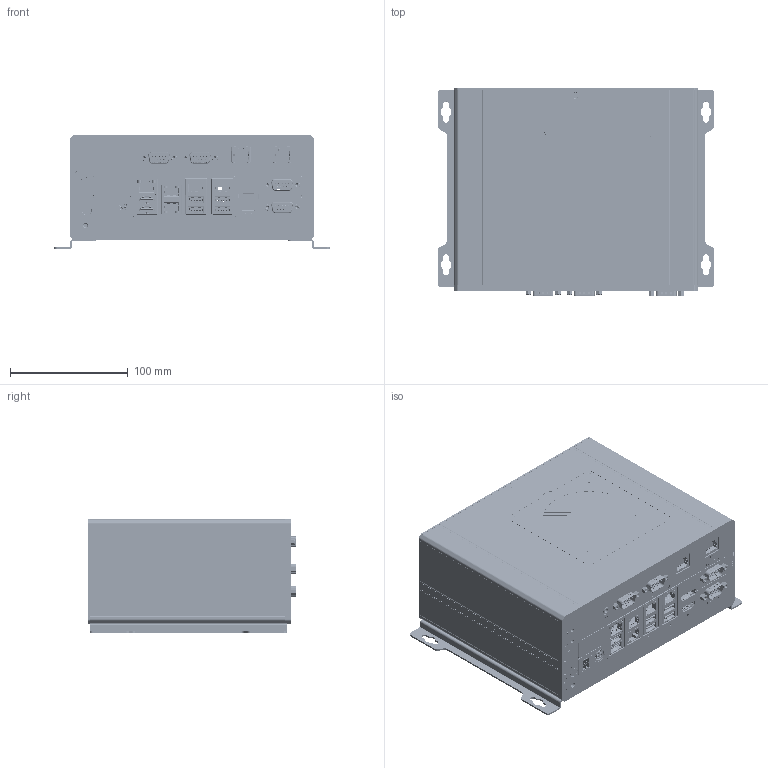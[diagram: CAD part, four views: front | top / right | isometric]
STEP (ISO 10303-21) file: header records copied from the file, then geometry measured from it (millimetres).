
FILE_DESCRIPTION(/* description */ (''),/* implementation_level */ '2;1');
FILE_NAME(/* name */ 'x2000.stp',/* time_stamp */ '2024-08-21T17:46:24+08:00',/* author */ (''),/* organization */ (''),/* preprocessor_version */ 'ST-DEVELOPER v16',/* originating_system */ 'SIEMENS PLM Software NX 10.0',/* authorisation */ '');
FILE_SCHEMA (('AUTOMOTIVE_DESIGN { 1 0 10303 214 3 1 1 1 }'));
Products named in the file (1): 新3D
Bounding box: 235 x 177.27 x 96.8 mm (x, y, z)
Volume: 2685202.8 mm3; surface area: 328264.3 mm2
Topology: 1 solids, 47 shells, 10295 faces, 28816 edges, 18714 vertices
Faces by surface type: plane 5943, extrusion 1827, cylinder 1809, bspline 323, torus 156, cone 145, sphere 92
Full cylindrical faces by diameter (mm): 2.5 x8, 3.2 x2, 3.5 x8, 4 x4, 4.026 x1, 4.2 x7, 5 x6, 5.5 x2, 5.939 x1, 7 x1, 7.523 x1, 8 x1, 11.268 x1, 13.5 x1
Entity records: 387352 total; most frequent: CARTESIAN_POINT 134416, ORIENTED_EDGE 57092, DIRECTION 43467, EDGE_CURVE 28546, VECTOR 19393, VERTEX_POINT 18679, LINE 17566, AXIS2_PLACEMENT_3D 12037
